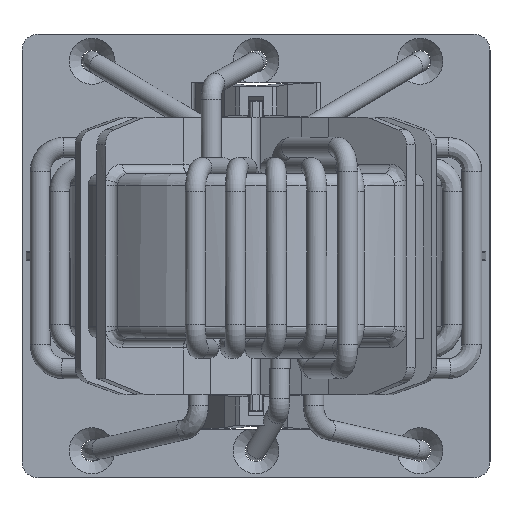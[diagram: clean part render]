
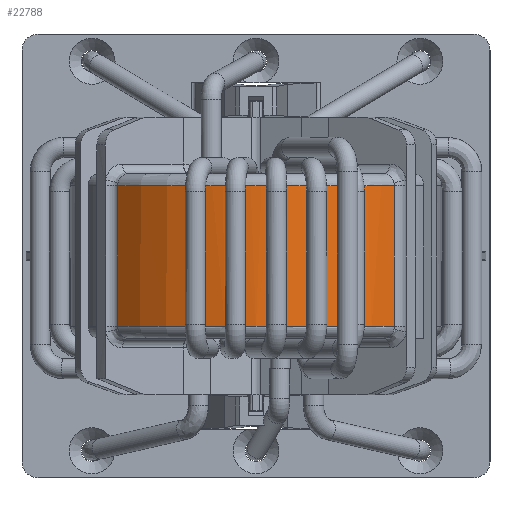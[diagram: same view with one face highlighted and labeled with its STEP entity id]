
A CAD part, left-side view. The second image highlights one B-rep face of the part: STEP entity #22788.
In plain terms, the highlighted cylindrical face has radius 23 mm (diameter 46 mm), a partial arc.
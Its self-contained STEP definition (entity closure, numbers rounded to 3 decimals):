
#19746=CARTESIAN_POINT('',(-20.028,7.411,18.9));
#19747=VERTEX_POINT('',#19746);
#19765=CARTESIAN_POINT('',(-20.264,6.687,18.9));
#19766=VERTEX_POINT('',#19765);
#19767=CARTESIAN_POINT('',(-20.264,6.687,18.9));
#19768=CARTESIAN_POINT('',(-20.234,6.782,18.818));
#19769=CARTESIAN_POINT('',(-20.211,6.855,18.78));
#19770=CARTESIAN_POINT('',(-20.178,6.959,18.741));
#19771=CARTESIAN_POINT('',(-20.161,7.011,18.731));
#19772=CARTESIAN_POINT('',(-20.127,7.116,18.736));
#19773=CARTESIAN_POINT('',(-20.111,7.164,18.749));
#19774=CARTESIAN_POINT('',(-20.078,7.264,18.793));
#19775=CARTESIAN_POINT('',(-20.056,7.33,18.831));
#19776=CARTESIAN_POINT('',(-20.028,7.411,18.9));
#19777=B_SPLINE_CURVE_WITH_KNOTS('',3,(#19767,#19768,#19769,#19770,#19771,#19772,#19773,#19774,#19775,#19776),.UNSPECIFIED.,.F.,.U.,(4,2,2,2,4),(0.0,0.039,0.076,0.11,0.15),.UNSPECIFIED.);
#19778=EDGE_CURVE('',#19766,#19747,#19777,.T.);
#20065=CARTESIAN_POINT('',(-21.108,2.717,18.9));
#20066=VERTEX_POINT('',#20065);
#20084=CARTESIAN_POINT('',(-21.187,1.959,18.9));
#20085=VERTEX_POINT('',#20084);
#20086=CARTESIAN_POINT('',(-21.187,1.959,18.9));
#20087=CARTESIAN_POINT('',(-21.179,2.048,18.828));
#20088=CARTESIAN_POINT('',(-21.173,2.119,18.789));
#20089=CARTESIAN_POINT('',(-21.162,2.231,18.745));
#20090=CARTESIAN_POINT('',(-21.156,2.286,18.732));
#20091=CARTESIAN_POINT('',(-21.144,2.398,18.734));
#20092=CARTESIAN_POINT('',(-21.139,2.448,18.745));
#20093=CARTESIAN_POINT('',(-21.127,2.555,18.787));
#20094=CARTESIAN_POINT('',(-21.119,2.627,18.826));
#20095=CARTESIAN_POINT('',(-21.108,2.717,18.9));
#20096=B_SPLINE_CURVE_WITH_KNOTS('',3,(#20086,#20087,#20088,#20089,#20090,#20091,#20092,#20093,#20094,#20095),.UNSPECIFIED.,.F.,.U.,(4,2,2,2,4),(0.0,0.034,0.067,0.096,0.131),.UNSPECIFIED.);
#20097=EDGE_CURVE('',#20085,#20066,#20096,.T.);
#20382=CARTESIAN_POINT('',(-21.186,-2.1,18.9));
#20383=VERTEX_POINT('',#20382);
#20401=CARTESIAN_POINT('',(-21.106,-2.857,18.9));
#20402=VERTEX_POINT('',#20401);
#20403=CARTESIAN_POINT('',(-21.106,-2.857,18.9));
#20404=CARTESIAN_POINT('',(-21.117,-2.766,18.828));
#20405=CARTESIAN_POINT('',(-21.125,-2.694,18.788));
#20406=CARTESIAN_POINT('',(-21.138,-2.58,18.744));
#20407=CARTESIAN_POINT('',(-21.144,-2.525,18.732));
#20408=CARTESIAN_POINT('',(-21.156,-2.413,18.735));
#20409=CARTESIAN_POINT('',(-21.161,-2.363,18.747));
#20410=CARTESIAN_POINT('',(-21.171,-2.258,18.789));
#20411=CARTESIAN_POINT('',(-21.178,-2.187,18.828));
#20412=CARTESIAN_POINT('',(-21.186,-2.1,18.9));
#20413=B_SPLINE_CURVE_WITH_KNOTS('',3,(#20403,#20404,#20405,#20406,#20407,#20408,#20409,#20410,#20411,#20412),.UNSPECIFIED.,.F.,.U.,(4,2,2,2,4),(0.0,0.035,0.067,0.096,0.13),.UNSPECIFIED.);
#20414=EDGE_CURVE('',#20402,#20383,#20413,.T.);
#20714=CARTESIAN_POINT('',(-20.259,-6.828,18.9));
#20715=VERTEX_POINT('',#20714);
#20733=CARTESIAN_POINT('',(-20.024,-7.549,18.9));
#20734=VERTEX_POINT('',#20733);
#20735=CARTESIAN_POINT('',(-20.024,-7.549,18.9));
#20736=CARTESIAN_POINT('',(-20.057,-7.452,18.82));
#20737=CARTESIAN_POINT('',(-20.083,-7.375,18.779));
#20738=CARTESIAN_POINT('',(-20.121,-7.262,18.74));
#20739=CARTESIAN_POINT('',(-20.138,-7.21,18.732));
#20740=CARTESIAN_POINT('',(-20.172,-7.105,18.74));
#20741=CARTESIAN_POINT('',(-20.187,-7.057,18.754));
#20742=CARTESIAN_POINT('',(-20.217,-6.961,18.799));
#20743=CARTESIAN_POINT('',(-20.236,-6.901,18.836));
#20744=CARTESIAN_POINT('',(-20.259,-6.828,18.9));
#20745=B_SPLINE_CURVE_WITH_KNOTS('',3,(#20735,#20736,#20737,#20738,#20739,#20740,#20741,#20742,#20743,#20744),.UNSPECIFIED.,.F.,.U.,(4,2,2,2,4),(0.0,0.039,0.072,0.103,0.136),.UNSPECIFIED.);
#20746=EDGE_CURVE('',#20734,#20715,#20745,.T.);
#20993=CARTESIAN_POINT('',(-17.989,-11.913,18.9));
#20994=VERTEX_POINT('',#20993);
#21030=CARTESIAN_POINT('',(-18.367,-11.26,18.9));
#21031=VERTEX_POINT('',#21030);
#21049=CARTESIAN_POINT('',(-17.989,-11.913,18.9));
#21050=CARTESIAN_POINT('',(-18.043,-11.822,18.82));
#21051=CARTESIAN_POINT('',(-18.085,-11.751,18.779));
#21052=CARTESIAN_POINT('',(-18.146,-11.648,18.741));
#21053=CARTESIAN_POINT('',(-18.174,-11.6,18.733));
#21054=CARTESIAN_POINT('',(-18.228,-11.505,18.742));
#21055=CARTESIAN_POINT('',(-18.253,-11.462,18.757));
#21056=CARTESIAN_POINT('',(-18.302,-11.376,18.802));
#21057=CARTESIAN_POINT('',(-18.332,-11.323,18.839));
#21058=CARTESIAN_POINT('',(-18.367,-11.26,18.9));
#21059=B_SPLINE_CURVE_WITH_KNOTS('',3,(#21049,#21050,#21051,#21052,#21053,#21054,#21055,#21056,#21057,#21058),.UNSPECIFIED.,.F.,.U.,(4,2,2,2,4),(0.0,0.04,0.073,0.103,0.135),.UNSPECIFIED.);
#21060=EDGE_CURVE('',#20994,#21031,#21059,.T.);
#22400=CARTESIAN_POINT('',(-13.611,-17.205,1.5));
#22401=VERTEX_POINT('',#22400);
#22409=CARTESIAN_POINT('',(-13.611,17.079,1.5));
#22410=VERTEX_POINT('',#22409);
#22411=CARTESIAN_POINT('',(1.724,-0.063,1.5));
#22412=DIRECTION('',(0.0,0.0,-1.0));
#22413=DIRECTION('',(-1.0,0.0,0.0));
#22414=AXIS2_PLACEMENT_3D('',#22411,#22412,#22413);
#22415=CIRCLE('',#22414,23.);
#22416=EDGE_CURVE('',#22401,#22410,#22415,.T.);
#22717=CARTESIAN_POINT('',(1.724,-0.063,10.2));
#22718=DIRECTION('',(0.,0.,1.0));
#22719=DIRECTION('',(-0.5,-0.866,0.));
#22720=AXIS2_PLACEMENT_3D('',#22717,#22718,#22719);
#22721=CYLINDRICAL_SURFACE('',#22720,23.);
#22722=ORIENTED_EDGE('',*,*,#19778,.T.);
#22723=CARTESIAN_POINT('',(-13.611,17.079,18.9));
#22724=VERTEX_POINT('',#22723);
#22725=CARTESIAN_POINT('',(1.724,-0.063,18.9));
#22726=DIRECTION('',(0.0,0.0,1.0));
#22727=DIRECTION('',(-1.0,0.0,0.0));
#22728=AXIS2_PLACEMENT_3D('',#22725,#22726,#22727);
#22729=CIRCLE('',#22728,23.);
#22730=EDGE_CURVE('',#22724,#19747,#22729,.T.);
#22731=ORIENTED_EDGE('',*,*,#22730,.F.);
#22732=CARTESIAN_POINT('',(-13.611,17.079,1.5));
#22733=DIRECTION('',(0.0,0.0,1.0));
#22734=VECTOR('',#22733,17.4);
#22735=LINE('',#22732,#22734);
#22736=EDGE_CURVE('',#22410,#22724,#22735,.T.);
#22737=ORIENTED_EDGE('',*,*,#22736,.F.);
#22738=ORIENTED_EDGE('',*,*,#22416,.F.);
#22739=CARTESIAN_POINT('',(-13.611,-17.205,18.9));
#22740=VERTEX_POINT('',#22739);
#22741=CARTESIAN_POINT('',(-13.611,-17.205,18.9));
#22742=DIRECTION('',(0.0,0.0,-1.0));
#22743=VECTOR('',#22742,17.4);
#22744=LINE('',#22741,#22743);
#22745=EDGE_CURVE('',#22740,#22401,#22744,.T.);
#22746=ORIENTED_EDGE('',*,*,#22745,.F.);
#22747=CARTESIAN_POINT('',(1.724,-0.063,18.9));
#22748=DIRECTION('',(0.0,0.0,1.0));
#22749=DIRECTION('',(-1.0,0.0,0.0));
#22750=AXIS2_PLACEMENT_3D('',#22747,#22748,#22749);
#22751=CIRCLE('',#22750,23.);
#22752=EDGE_CURVE('',#20994,#22740,#22751,.T.);
#22753=ORIENTED_EDGE('',*,*,#22752,.F.);
#22754=ORIENTED_EDGE('',*,*,#21060,.T.);
#22755=CARTESIAN_POINT('',(1.724,-0.063,18.9));
#22756=DIRECTION('',(0.0,0.0,1.0));
#22757=DIRECTION('',(-1.0,0.0,0.0));
#22758=AXIS2_PLACEMENT_3D('',#22755,#22756,#22757);
#22759=CIRCLE('',#22758,23.);
#22760=EDGE_CURVE('',#20734,#21031,#22759,.T.);
#22761=ORIENTED_EDGE('',*,*,#22760,.F.);
#22762=ORIENTED_EDGE('',*,*,#20746,.T.);
#22763=CARTESIAN_POINT('',(1.724,-0.063,18.9));
#22764=DIRECTION('',(0.0,0.0,1.0));
#22765=DIRECTION('',(-1.0,0.0,0.0));
#22766=AXIS2_PLACEMENT_3D('',#22763,#22764,#22765);
#22767=CIRCLE('',#22766,23.);
#22768=EDGE_CURVE('',#20402,#20715,#22767,.T.);
#22769=ORIENTED_EDGE('',*,*,#22768,.F.);
#22770=ORIENTED_EDGE('',*,*,#20414,.T.);
#22771=CARTESIAN_POINT('',(1.724,-0.063,18.9));
#22772=DIRECTION('',(0.0,0.0,1.0));
#22773=DIRECTION('',(-1.0,0.0,0.0));
#22774=AXIS2_PLACEMENT_3D('',#22771,#22772,#22773);
#22775=CIRCLE('',#22774,23.);
#22776=EDGE_CURVE('',#20085,#20383,#22775,.T.);
#22777=ORIENTED_EDGE('',*,*,#22776,.F.);
#22778=ORIENTED_EDGE('',*,*,#20097,.T.);
#22779=CARTESIAN_POINT('',(1.724,-0.063,18.9));
#22780=DIRECTION('',(0.0,0.0,1.0));
#22781=DIRECTION('',(-1.0,0.0,0.0));
#22782=AXIS2_PLACEMENT_3D('',#22779,#22780,#22781);
#22783=CIRCLE('',#22782,23.);
#22784=EDGE_CURVE('',#19766,#20066,#22783,.T.);
#22785=ORIENTED_EDGE('',*,*,#22784,.F.);
#22786=EDGE_LOOP('',(#22722,#22731,#22737,#22738,#22746,#22753,#22754,#22761,#22762,#22769,#22770,#22777,#22778,#22785));
#22787=FACE_OUTER_BOUND('',#22786,.T.);
#22788=ADVANCED_FACE('',(#22787),#22721,.T.);
